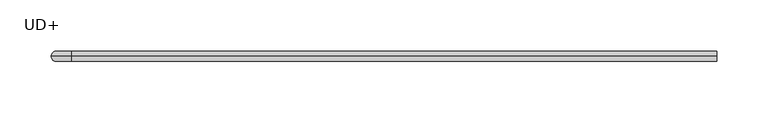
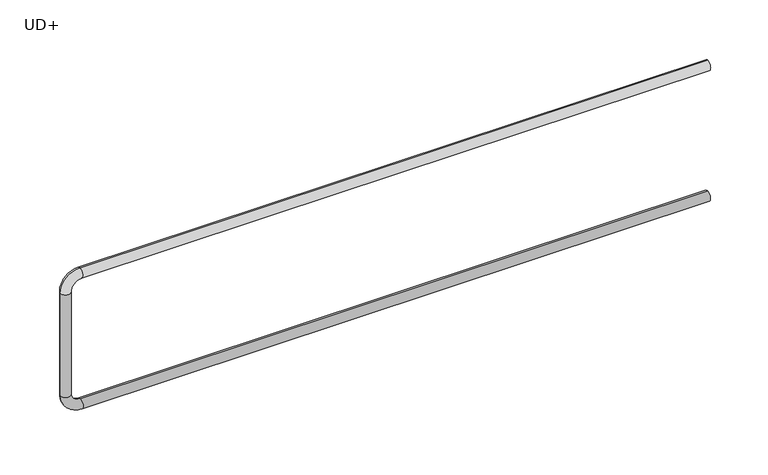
"""IFC4 building model written with IfcOpenShell, lengths in millimetres: fastener geometry, ACINOXplus_Typenreihe_Ux-Ox : UD+."""

from ifc_helpers import new_model, si_unit, point, frame, origin, place, context, project, spatial, circle_curve, ellipse_curve, trimmed, source, transform, mapped, element, save
from ifc_brep_helpers import plane_surface, cylinder_surface, revolved_surface, advanced_brep


def ud_65e91996(model_context):
    return source(origin(), model_context, "Body", "AdvancedBrep", [
        advanced_brep(
        [(440.0, -400.0, -25.5), (440.0, -400.0, -35.5), (-190.0, -400.0, -25.5), (-190.0, -400.0, -35.5), (-200.0, -400.0, -45.5), (-210.0, -400.0, -45.5), (-210.0, -400.0, -154.5), (-200.0, -400.0, -154.5), (-190.0, -400.0, -164.5), (-190.0, -400.0, -174.5), (440.0, -400.0, -174.5), (440.0, -400.0, -164.5)],
        [
            (0, 1, circle_curve(frame((440.0, -400.0, -30.5), z_axis=(1.0, 0.0, 0.0), x_axis=(0.0, 0.0, -1.0)), 5.0)),
            (1, 0, circle_curve(frame((440.0, -400.0, -30.5), z_axis=(1.0, 0.0, 0.0), x_axis=(0.0, 0.0, -1.0)), 5.0)),
            (0, 2),
            (2, 3, circle_curve(frame((-190.0, -400.0, -30.5), z_axis=(1.0, 0.0, 0.0), x_axis=(0.0, 0.0, -1.0)), 5.0)),
            (3, 1),
            (3, 2, circle_curve(frame((-190.0, -400.0, -30.5), z_axis=(1.0, 0.0, 0.0), x_axis=(0.0, 0.0, -1.0)), 5.0)),
            (4, 3, circle_curve(frame((-190.0, -400.0, -45.5), z_axis=(0.0, 1.0, 0.0), x_axis=(0.0, 0.0, 1.0)), 10.0)),
            (2, 5, circle_curve(frame((-190.0, -400.0, -45.5), z_axis=(0.0, -1.0, 0.0), x_axis=(0.0, 0.0, 1.0)), 20.0)),
            (5, 4, circle_curve(frame((-205.0, -400.0, -45.5), z_axis=(0.0, 0.0, 1.0), x_axis=(1.0, 0.0, 0.0)), 5.0)),
            (4, 5, circle_curve(frame((-205.0, -400.0, -45.5), z_axis=(0.0, 0.0, 1.0), x_axis=(1.0, 0.0, 0.0)), 5.0)),
            (5, 6),
            (6, 7, circle_curve(frame((-205.0, -400.0, -154.5), z_axis=(0.0, 0.0, 1.0), x_axis=(1.0, 0.0, 0.0)), 5.0)),
            (7, 4),
            (7, 6, circle_curve(frame((-205.0, -400.0, -154.5), z_axis=(0.0, 0.0, 1.0), x_axis=(1.0, 0.0, 0.0)), 5.0)),
            (8, 7, circle_curve(frame((-190.0, -400.0, -154.5), z_axis=(0.0, 1.0, 0.0), x_axis=(-1.0, 0.0, 0.0)), 10.0)),
            (6, 9, circle_curve(frame((-190.0, -400.0, -154.5), z_axis=(0.0, -1.0, 0.0), x_axis=(-1.0, 0.0, 0.0)), 20.0)),
            (9, 8, circle_curve(frame((-190.0, -400.0, -169.5), z_axis=(-1.0, 0.0, 0.0), x_axis=(0.0, 0.0, 1.0)), 5.0)),
            (8, 9, circle_curve(frame((-190.0, -400.0, -169.5), z_axis=(-1.0, 0.0, 0.0), x_axis=(0.0, 0.0, 1.0)), 5.0)),
            (10, 11, circle_curve(frame((440.0, -400.0, -169.5), z_axis=(1.0, 0.0, 0.0), x_axis=(0.0, 0.0, 1.0)), 5.0)),
            (11, 10, circle_curve(frame((440.0, -400.0, -169.5), z_axis=(1.0, 0.0, 0.0), x_axis=(0.0, 0.0, 1.0)), 5.0)),
            (9, 10),
            (11, 8),
        ],
        [
            plane_surface(frame((440.0, -400.0, -30.5), z_axis=(1.0, 0.0, 0.0), x_axis=(0.0, -1.0, 0.0))),
            cylinder_surface(frame((440.0, -400.0, -30.5), z_axis=(1.0, 0.0, 0.0), x_axis=(0.0, 0.0, -1.0)), 5.0),
            revolved_surface(trimmed(ellipse_curve(frame((-190.0, -400.0, -30.5), z_axis=(1.0, 0.0, 0.0), x_axis=(0.0, 0.0, -1.0)), 5.0, 5.0), [point((-190.0, -400.0, -25.5))], [point((-190.0, -400.0, -35.5))], True, "CARTESIAN"), (-190.0, -400.0, -45.5), (0.0, -1.0, 0.0)),
            revolved_surface(trimmed(ellipse_curve(frame((-190.0, -400.0, -30.5), z_axis=(1.0, 0.0, 0.0), x_axis=(0.0, 0.0, -1.0)), 5.0, 5.0), [point((-190.0, -400.0, -35.5))], [point((-190.0, -400.0, -25.5))], True, "CARTESIAN"), (-190.0, -400.0, -45.5), (0.0, -1.0, 0.0)),
            cylinder_surface(frame((-205.0, -400.0, -45.5), z_axis=(0.0, 0.0, 1.0), x_axis=(1.0, 0.0, 0.0)), 5.0),
            revolved_surface(trimmed(ellipse_curve(frame((-205.0, -400.0, -154.5), z_axis=(0.0, 0.0, 1.0), x_axis=(1.0, 0.0, 0.0)), 5.0, 5.0), [point((-210.0, -400.0, -154.5))], [point((-200.0, -400.0, -154.5))], True, "CARTESIAN"), (-190.0, -400.0, -154.5), (0.0, -1.0, 0.0)),
            revolved_surface(trimmed(ellipse_curve(frame((-205.0, -400.0, -154.5), z_axis=(0.0, 0.0, 1.0), x_axis=(1.0, 0.0, 0.0)), 5.0, 5.0), [point((-200.0, -400.0, -154.5))], [point((-210.0, -400.0, -154.5))], True, "CARTESIAN"), (-190.0, -400.0, -154.5), (0.0, -1.0, 0.0)),
            plane_surface(frame((440.0, -400.0, -169.5), z_axis=(1.0, 0.0, 0.0), x_axis=(0.0, -1.0, 0.0))),
            cylinder_surface(frame((-190.0, -400.0, -169.5), z_axis=(-1.0, 0.0, 0.0), x_axis=(0.0, 0.0, 1.0)), 5.0),
        ],
        [
            (0, [[1, 2]]),
            (1, [[-1, 3, 4, 5]]),
            (1, [[-2, -5, 6, -3]]),
            (2, [[7, -4, 8, 9]]),
            (3, [[-8, -6, -7, 10]]),
            (4, [[-9, 11, 12, 13]]),
            (4, [[-10, -13, 14, -11]]),
            (5, [[15, -12, 16, 17]]),
            (6, [[-16, -14, -15, 18]]),
            (7, [[19, 20]]),
            (8, [[-17, 21, -20, 22]]),
            (8, [[-18, -22, -19, -21]]),
        ],
    ),
    ])


if __name__ == "__main__":
    model = new_model("IFC4")
    model_context = context("Model", 3, world=origin())
    ifc_project = project(units=[si_unit("LENGTHUNIT", "METRE", prefix="MILLI")], contexts=[model_context])
    site = spatial("IfcSite", under=ifc_project)
    building = spatial("IfcBuilding", under=site)
    placement = place(None, origin())
    ud_shape = ud_65e91996(model_context)
    element("IfcFastener", 1, ObjectType="ACINOXplus_Typenreihe_Ux-Ox : UD+", at=placement, inside=building, context=model_context, shape_type="MappedRepresentation", body=[
        mapped(ud_shape, transform((0.0, 0.0, 0.0), x_axis=(1.0, 0.0, 0.0), y_axis=(0.0, 1.0, 0.0), z_axis=(0.0, 0.0, 1.0))),
    ])
    save(model, "model.ifc")
